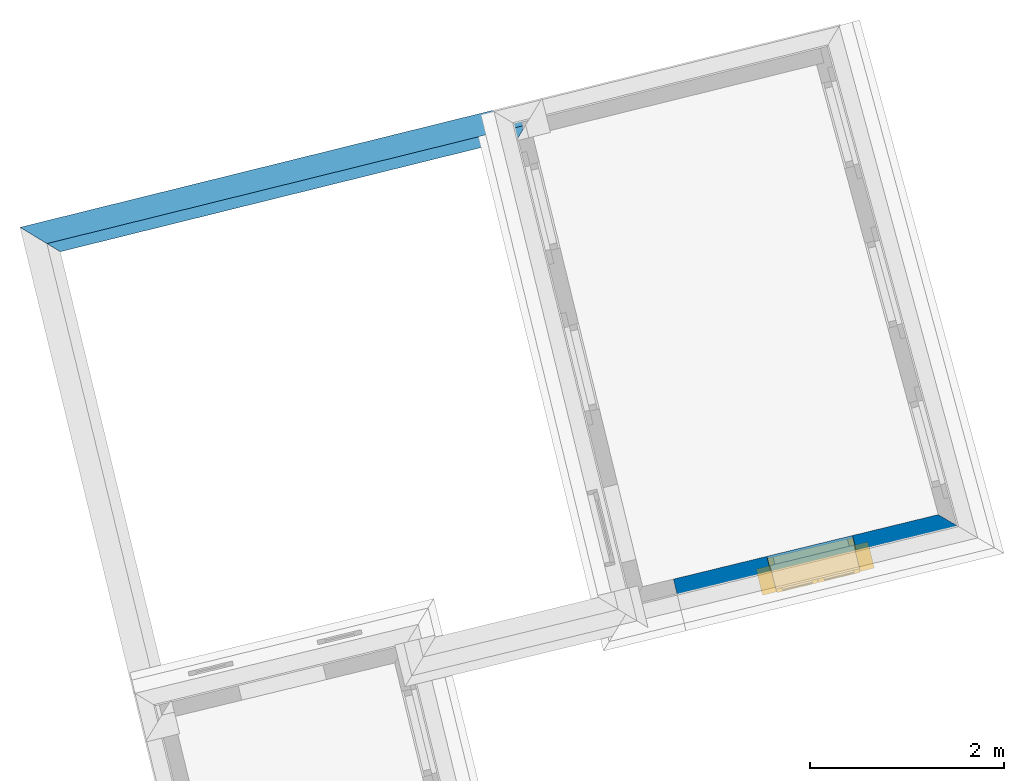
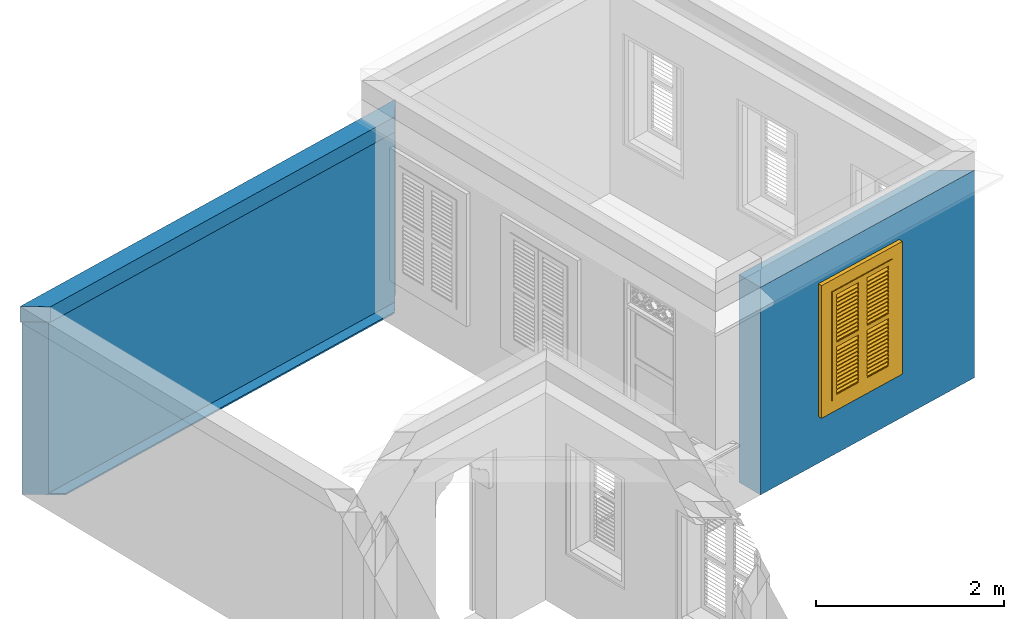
# One storey, part 3 of 7: 3 walls, 1 window, 1 opening.
"""IFC4 building model written with IfcOpenShell, lengths in metres."""

from ifc_helpers import new_model, si_unit, frame, origin, origin_with_axes, place, context, subcontext, project, spatial, polyline, outline, extrude, clip, halfspace, faceted_brep, source, transform, mapped, material, layer, layer_set, layer_usage, material_profile, profile_set, profile_usage, type_object, type_shapes, element, fill, save


model = new_model("IFC4")

# Units and contexts
model_context = context("Model", 3, world=origin_with_axes())
body_context = subcontext(model_context, "Body", "Model", "MODEL_VIEW")
ifc_project = project(units=[si_unit("PLANEANGLEUNIT", "RADIAN"), si_unit("MASSUNIT", "GRAM", prefix="KILO"), si_unit("FORCEUNIT", "NEWTON", prefix="KILO"), si_unit("LENGTHUNIT", "METRE"), si_unit("AREAUNIT", "SQUARE_METRE"), si_unit("VOLUMEUNIT", "CUBIC_METRE")], contexts=[model_context, model_context])

# Site, building, storey
site_placement = place(None, origin_with_axes())
site = spatial("IfcSite", under=ifc_project, at=site_placement, Name="Site plot-4", CompositionType="ELEMENT")
building_placement = place(None, origin_with_axes())
building = spatial("IfcBuilding", under=site, at=building_placement, Name="Building plot-4", CompositionType="ELEMENT")
storey_placement = place(None, frame((0.0, 0.0, 5.4), z_axis=(0.0, 0.0, 1.0), x_axis=(1.0, 0.0, 0.0)))
storey = spatial("IfcBuildingStorey", under=building, at=storey_placement, Name="plot-4 2", CompositionType="ELEMENT", Elevation=5.4)

# Wall, opening, window
ifc_material = material(Name="Masonry")
ifc_layer = layer(ifc_material, 0.33, ventilated=False)
ifc_layer_set = layer_set([ifc_layer], Name="exterior_0.08_0.25")
ifc_layer_usage = layer_usage(ifc_layer_set, "AXIS2", "POSITIVE", -0.25)
wall_type_1 = type_object("IfcWallType", Name="exterior_0.08_0.25", PredefinedType="SOLIDWALL", material=ifc_layer_set)
wall_1_placement = place(storey_placement, frame((23.8026850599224, 15.7162538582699, 0.0), z_axis=(0.0, 0.0, 1.0), x_axis=(0.971605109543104, 0.236608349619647, 0.0)))
wall_1 = element("IfcWall", 1, at=wall_1_placement, inside=storey, type_object=wall_type_1, material=ifc_layer_usage, Name="exterior", context=body_context, shape_type="SweptSolid", body=[
    extrude(outline(polyline([(-1.72737096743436e-16, 0.0800000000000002), (-7.61848032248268e-16, -0.25), (3.15434402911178, -0.250000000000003), (2.81586708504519, 0.0799999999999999), (-1.72737096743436e-16, 0.0800000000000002)])), origin_with_axes(), (0.0, 0.0, 1.0), 2.7),
])
opening_placement = place(wall_1_placement, frame((0.993961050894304, 0.0, 0.75)))
opening = element("IfcOpeningElement", 2, at=opening_placement, cuts=wall_1, Name="My Opening", ObjectType="Opening", context=body_context, shape_type="SweptSolid", body=[
    extrude(outline(polyline([(0.0, -0.270000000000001), (0.909999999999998, -0.270000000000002), (0.909999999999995, 1.1), (-1.88737914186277e-15, 1.1), (0.0, -0.270000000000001)])), origin_with_axes(), (0.0, 0.0, 1.0), 1.445),
])
window_type = type_object("IfcWindowType", Name="shuttered_shorter", PartitioningType="DOUBLE_PANEL_HORIZONTAL", PredefinedType="NOTDEFINED")
shared_shape = source(origin(), body_context, "Body", "Brep", [
    faceted_brep([(0.393, 0.0, 0.622), (0.074, 0.0, 0.622), (0.074, 0.0, 0.632), (0.393, 0.0, 0.632), (0.074, -0.04, 0.592), (0.393, -0.04, 0.592), (0.393, -0.04, 0.582), (0.074, -0.04, 0.582), (0.517, 0.0, 0.682), (0.836, 0.0, 0.682), (0.836, 0.0, 0.672), (0.517, 0.0, 0.672), (0.517, -0.04, 0.642), (0.836, -0.04, 0.642), (0.836, -0.04, 0.632), (0.517, -0.04, 0.632), (0.517, 0.0, 0.632), (0.836, 0.0, 0.632), (0.836, 0.0, 0.622), (0.517, 0.0, 0.622), (0.517, -0.04, 0.592), (0.836, -0.04, 0.592), (0.836, -0.04, 0.582), (0.517, -0.04, 0.582), (0.517, 0.0, 0.232), (0.836, 0.0, 0.232), (0.836, 0.0, 0.222), (0.517, 0.0, 0.222), (0.517, -0.04, 0.192), (0.836, -0.04, 0.192), (0.836, -0.04, 0.182), (0.517, -0.04, 0.182), (0.517, 0.0, 0.532), (0.836, 0.0, 0.532), (0.836, 0.0, 0.522), (0.517, 0.0, 0.522), (0.517, -0.04, 0.492), (0.836, -0.04, 0.492), (0.836, -0.04, 0.482), (0.517, -0.04, 0.482), (0.517, 0.0, 0.482), (0.836, 0.0, 0.482), (0.836, 0.0, 0.472), (0.517, 0.0, 0.472), (0.517, -0.04, 0.442), (0.836, -0.04, 0.442), (0.836, -0.04, 0.432), (0.517, -0.04, 0.432), (0.517, 0.0, 0.582), (0.836, 0.0, 0.582), (0.836, 0.0, 0.572), (0.517, 0.0, 0.572), (0.517, -0.04, 0.542), (0.836, -0.04, 0.542), (0.836, -0.04, 0.532), (0.517, -0.04, 0.532), (0.517, 0.0, 0.182), (0.836, 0.0, 0.182), (0.836, 0.0, 0.172), (0.517, 0.0, 0.172), (0.517, -0.04, 0.142), (0.836, -0.04, 0.142), (0.836, -0.04, 0.132), (0.517, -0.04, 0.132), (0.517, 0.0, 0.382), (0.836, 0.0, 0.382), (0.836, 0.0, 0.372), (0.517, 0.0, 0.372), (0.517, -0.04, 0.342), (0.836, -0.04, 0.342), (0.836, -0.04, 0.332), (0.517, -0.04, 0.332), (0.517, 0.0, 0.432), (0.836, 0.0, 0.432), (0.836, 0.0, 0.422), (0.517, 0.0, 0.422), (0.517, -0.04, 0.392), (0.836, -0.04, 0.392), (0.836, -0.04, 0.382), (0.517, -0.04, 0.382), (0.517, 0.0, 0.132), (0.836, 0.0, 0.132), (0.836, 0.0, 0.122), (0.517, 0.0, 0.122), (0.517, -0.04, 0.092), (0.836, -0.04, 0.092), (0.836, -0.04, 0.082), (0.517, -0.04, 0.082), (0.517, 0.0, 0.282), (0.836, 0.0, 0.282), (0.836, 0.0, 0.272), (0.517, 0.0, 0.272), (0.517, -0.04, 0.242), (0.836, -0.04, 0.242), (0.836, -0.04, 0.232), (0.517, -0.04, 0.232), (0.517, 0.0, 0.332), (0.836, 0.0, 0.332), (0.836, 0.0, 0.322), (0.517, 0.0, 0.322), (0.517, -0.04, 0.292), (0.836, -0.04, 0.292), (0.836, -0.04, 0.282), (0.517, -0.04, 0.282), (0.517, 0.0, 1.362667), (0.836, 0.0, 1.362667), (0.836, 0.0, 1.352667), (0.517, 0.0, 1.352667), (0.517, -0.04, 1.322667), (0.836, -0.04, 1.322667), (0.836, -0.04, 1.312667), (0.517, -0.04, 1.312667), (0.517, 0.0, 1.312667), (0.836, 0.0, 1.312667), (0.836, 0.0, 1.302667), (0.517, 0.0, 1.302667), (0.517, -0.04, 1.272667), (0.836, -0.04, 1.272667), (0.836, -0.04, 1.262667), (0.517, -0.04, 1.262667), (0.517, 0.0, 0.912667), (0.836, 0.0, 0.912667), (0.836, 0.0, 0.902667), (0.517, 0.0, 0.902667), (0.517, -0.04, 0.872667), (0.836, -0.04, 0.872667), (0.836, -0.04, 0.862667), (0.517, -0.04, 0.862667), (0.517, 0.0, 1.212667), (0.836, 0.0, 1.212667), (0.836, 0.0, 1.202667), (0.517, 0.0, 1.202667), (0.517, -0.04, 1.172667), (0.836, -0.04, 1.172667), (0.836, -0.04, 1.162667), (0.517, -0.04, 1.162667), (0.517, 0.0, 1.162667), (0.836, 0.0, 1.162667), (0.836, 0.0, 1.152667), (0.517, 0.0, 1.152667), (0.517, -0.04, 1.122667), (0.836, -0.04, 1.122667), (0.836, -0.04, 1.112667), (0.517, -0.04, 1.112667), (0.517, 0.0, 1.262667), (0.836, 0.0, 1.262667), (0.836, 0.0, 1.252667), (0.517, 0.0, 1.252667), (0.517, -0.04, 1.222667), (0.836, -0.04, 1.222667), (0.836, -0.04, 1.212667), (0.517, -0.04, 1.212667), (0.517, 0.0, 0.862667), (0.836, 0.0, 0.862667), (0.836, 0.0, 0.852667), (0.517, 0.0, 0.852667), (0.517, -0.04, 0.822667), (0.836, -0.04, 0.822667), (0.836, -0.04, 0.812667), (0.517, -0.04, 0.812667), (0.517, 0.0, 1.062667), (0.836, 0.0, 1.062667), (0.836, 0.0, 1.052667), (0.517, 0.0, 1.052667), (0.517, -0.04, 1.022667), (0.836, -0.04, 1.022667), (0.836, -0.04, 1.012667), (0.517, -0.04, 1.012667), (0.517, 0.0, 1.112667), (0.836, 0.0, 1.112667), (0.836, 0.0, 1.102667), (0.517, 0.0, 1.102667), (0.517, -0.04, 1.072667), (0.836, -0.04, 1.072667), (0.836, -0.04, 1.062667), (0.517, -0.04, 1.062667), (0.517, 0.0, 0.812667), (0.836, 0.0, 0.812667), (0.836, 0.0, 0.802667), (0.517, 0.0, 0.802667), (0.517, -0.04, 0.772667), (0.836, -0.04, 0.772667), (0.836, -0.04, 0.762667), (0.517, -0.04, 0.762667), (0.517, 0.0, 0.962667), (0.836, 0.0, 0.962667), (0.836, 0.0, 0.952667), (0.517, 0.0, 0.952667), (0.517, -0.04, 0.922667), (0.836, -0.04, 0.922667), (0.836, -0.04, 0.912667), (0.517, -0.04, 0.912667), (0.517, 0.0, 1.012667), (0.836, 0.0, 1.012667), (0.836, 0.0, 1.002667), (0.517, 0.0, 1.002667), (0.517, -0.04, 0.972667), (0.836, -0.04, 0.972667), (0.836, -0.04, 0.962667), (0.517, -0.04, 0.962667), (0.074, 0.0, 0.682), (0.393, 0.0, 0.682), (0.393, 0.0, 0.672), (0.074, 0.0, 0.672), (0.074, -0.04, 0.642), (0.393, -0.04, 0.642), (0.393, -0.04, 0.632), (0.074, -0.04, 0.632), (0.074, 0.0, 0.232), (0.393, 0.0, 0.232), (0.393, 0.0, 0.222), (0.074, 0.0, 0.222), (0.074, -0.04, 0.192), (0.393, -0.04, 0.192), (0.393, -0.04, 0.182), (0.074, -0.04, 0.182), (0.074, 0.0, 0.532), (0.393, 0.0, 0.532), (0.393, 0.0, 0.522), (0.074, 0.0, 0.522), (0.074, -0.04, 0.492), (0.393, -0.04, 0.492), (0.393, -0.04, 0.482), (0.074, -0.04, 0.482), (0.074, 0.0, 0.482), (0.393, 0.0, 0.482), (0.393, 0.0, 0.472), (0.074, 0.0, 0.472), (0.074, -0.04, 0.442), (0.393, -0.04, 0.442), (0.393, -0.04, 0.432), (0.074, -0.04, 0.432), (0.074, 0.0, 0.582), (0.393, 0.0, 0.582), (0.393, 0.0, 0.572), (0.074, 0.0, 0.572), (0.074, -0.04, 0.542), (0.393, -0.04, 0.542), (0.393, -0.04, 0.532), (0.074, -0.04, 0.532), (0.074, 0.0, 0.182), (0.393, 0.0, 0.182), (0.393, 0.0, 0.172), (0.074, 0.0, 0.172), (0.074, -0.04, 0.142), (0.393, -0.04, 0.142), (0.393, -0.04, 0.132), (0.074, -0.04, 0.132), (0.074, 0.0, 0.382), (0.393, 0.0, 0.382), (0.393, 0.0, 0.372), (0.074, 0.0, 0.372), (0.074, -0.04, 0.342), (0.393, -0.04, 0.342), (0.393, -0.04, 0.332), (0.074, -0.04, 0.332), (0.074, 0.0, 0.432), (0.393, 0.0, 0.432), (0.393, 0.0, 0.422), (0.074, 0.0, 0.422), (0.074, -0.04, 0.392), (0.393, -0.04, 0.392), (0.393, -0.04, 0.382), (0.074, -0.04, 0.382), (0.074, 0.0, 0.132), (0.393, 0.0, 0.132), (0.393, 0.0, 0.122), (0.074, 0.0, 0.122), (0.074, -0.04, 0.092), (0.393, -0.04, 0.092), (0.393, -0.04, 0.082), (0.074, -0.04, 0.082), (0.074, 0.0, 0.282), (0.393, 0.0, 0.282), (0.393, 0.0, 0.272), (0.074, 0.0, 0.272), (0.074, -0.04, 0.242), (0.393, -0.04, 0.242), (0.393, -0.04, 0.232), (0.074, -0.04, 0.232), (0.074, 0.0, 0.332), (0.393, 0.0, 0.332), (0.393, 0.0, 0.322), (0.074, 0.0, 0.322), (0.074, -0.04, 0.292), (0.393, -0.04, 0.292), (0.393, -0.04, 0.282), (0.074, -0.04, 0.282), (0.074, 0.0, 1.362667), (0.393, 0.0, 1.362667), (0.393, 0.0, 1.352667), (0.074, 0.0, 1.352667), (0.074, -0.04, 1.322667), (0.393, -0.04, 1.322667), (0.393, -0.04, 1.312667), (0.074, -0.04, 1.312667), (0.074, 0.0, 1.312667), (0.393, 0.0, 1.312667), (0.393, 0.0, 1.302667), (0.074, 0.0, 1.302667), (0.074, -0.04, 1.272667), (0.393, -0.04, 1.272667), (0.393, -0.04, 1.262667), (0.074, -0.04, 1.262667), (0.074, 0.0, 0.912667), (0.393, 0.0, 0.912667), (0.393, 0.0, 0.902667), (0.074, 0.0, 0.902667), (0.074, -0.04, 0.872667), (0.393, -0.04, 0.872667), (0.393, -0.04, 0.862667), (0.074, -0.04, 0.862667), (0.074, 0.0, 1.212667), (0.393, 0.0, 1.212667), (0.393, 0.0, 1.202667), (0.074, 0.0, 1.202667), (0.074, -0.04, 1.172667), (0.393, -0.04, 1.172667), (0.393, -0.04, 1.162667), (0.074, -0.04, 1.162667), (0.074, 0.0, 1.162667), (0.393, 0.0, 1.162667), (0.393, 0.0, 1.152667), (0.074, 0.0, 1.152667), (0.074, -0.04, 1.122667), (0.393, -0.04, 1.122667), (0.393, -0.04, 1.112667), (0.074, -0.04, 1.112667), (0.074, 0.0, 1.262667), (0.393, 0.0, 1.262667), (0.393, 0.0, 1.252667), (0.074, 0.0, 1.252667), (0.074, -0.04, 1.222667), (0.393, -0.04, 1.222667), (0.393, -0.04, 1.212667), (0.074, -0.04, 1.212667), (0.074, 0.0, 0.862667), (0.393, 0.0, 0.862667), (0.393, 0.0, 0.852667), (0.074, 0.0, 0.852667), (0.074, -0.04, 0.822667), (0.393, -0.04, 0.822667), (0.393, -0.04, 0.812667), (0.074, -0.04, 0.812667), (0.074, 0.0, 1.062667), (0.393, 0.0, 1.062667), (0.393, 0.0, 1.052667), (0.074, 0.0, 1.052667), (0.074, -0.04, 1.022667), (0.393, -0.04, 1.022667), (0.393, -0.04, 1.012667), (0.074, -0.04, 1.012667), (0.074, 0.0, 1.112667), (0.393, 0.0, 1.112667), (0.393, 0.0, 1.102667), (0.074, 0.0, 1.102667), (0.074, -0.04, 1.072667), (0.393, -0.04, 1.072667), (0.393, -0.04, 1.062667), (0.074, -0.04, 1.062667), (0.074, 0.0, 0.812667), (0.393, 0.0, 0.812667), (0.393, 0.0, 0.802667), (0.074, 0.0, 0.802667), (0.074, -0.04, 0.772667), (0.393, -0.04, 0.772667), (0.393, -0.04, 0.762667), (0.074, -0.04, 0.762667), (0.074, 0.0, 0.962667), (0.393, 0.0, 0.962667), (0.393, 0.0, 0.952667), (0.074, 0.0, 0.952667), (0.074, -0.04, 0.922667), (0.393, -0.04, 0.922667), (0.393, -0.04, 0.912667), (0.074, -0.04, 0.912667), (0.074, 0.0, 1.012667), (0.393, 0.0, 1.012667), (0.393, 0.0, 1.002667), (0.074, 0.0, 1.002667), (0.074, -0.04, 0.972667), (0.393, -0.04, 0.972667), (0.393, -0.04, 0.962667), (0.074, -0.04, 0.962667), (0.517, -0.04, 0.072), (0.457, -0.04, 0.012), (0.896, -0.04, 0.012), (0.836, -0.04, 0.072), (0.457, -0.04, 0.692667), (0.517, -0.04, 0.692667), (0.457, 0.0, 0.012), (0.896, 0.0, 0.012), (0.836, -0.04, 0.692667), (0.896, -0.04, 0.692667), (0.836, 0.0, 0.072), (0.517, 0.0, 0.072), (0.457, 0.0, 0.692667), (0.517, 0.0, 0.692667), (0.517, -0.04, 0.752666), (0.457, -0.04, 0.752666), (0.896, 0.0, 0.692667), (0.836, 0.0, 0.692667), (0.836, -0.04, 0.752666), (0.896, -0.04, 0.752666), (0.457, 0.0, 0.752666), (0.457, -0.04, 1.433333), (0.517, -0.04, 1.373333), (0.896, 0.0, 0.752666), (0.836, -0.04, 1.373333), (0.896, -0.04, 1.433333), (0.457, 0.0, 1.433333), (0.517, 0.0, 0.752666), (0.836, 0.0, 0.752666), (0.517, 0.0, 1.373333), (0.896, 0.0, 1.433333), (0.836, 0.0, 1.373333), (0.074, -0.04, 0.072), (0.014, -0.04, 0.012), (0.453, -0.04, 0.012), (0.393, -0.04, 0.072), (0.014, -0.04, 0.692667), (0.074, -0.04, 0.692667), (0.014, 0.0, 0.012), (0.453, 0.0, 0.012), (0.393, -0.04, 0.692667), (0.453, -0.04, 0.692667), (0.393, 0.0, 0.072), (0.074, 0.0, 0.072), (0.014, 0.0, 0.692667), (0.074, 0.0, 0.692667), (0.074, -0.04, 0.752666), (0.014, -0.04, 0.752666), (0.453, 0.0, 0.692667), (0.393, 0.0, 0.692667), (0.393, -0.04, 0.752666), (0.453, -0.04, 0.752666), (0.014, 0.0, 0.752666), (0.014, -0.04, 1.433333), (0.074, -0.04, 1.373333), (0.453, 0.0, 0.752666), (0.393, -0.04, 1.373333), (0.453, -0.04, 1.433333), (0.014, 0.0, 1.433333), (0.074, 0.0, 0.752666), (0.393, 0.0, 0.752666), (0.074, 0.0, 1.373333), (0.453, 0.0, 1.433333), (0.393, 0.0, 1.373333), (0.0, 0.33, 1.445), (0.91, 0.33, 1.445), (0.85, 0.33, 1.385), (0.06, 0.33, 1.385), (0.91, 0.25, 1.445), (0.0, 0.25, 1.445), (0.91, 0.25, 1.445), (0.85, 0.33, 0.06), (0.91, 0.33, 0.0), (0.85, 0.25, 1.385), (0.06, 0.25, 1.385), (0.0, 0.33, 0.0), (0.06, 0.33, 0.06), (0.0, 0.25, 0.0), (0.91, 0.25, 0.0), (0.85, 0.25, 0.06), (0.06, 0.25, 0.06), (1.05, 0.25, 1.585), (-0.14, 0.25, 1.585), (-0.14, -0.03, 1.585), (1.05, -0.03, 1.585), (0.9, -0.03, 1.435), (0.01, -0.03, 1.435), (0.01, 0.25, 1.435), (0.9, 0.25, 1.435), (0.9, 0.25, 0.01), (0.9, -0.03, 0.01), (1.05, -0.03, -0.14), (1.05, 0.25, -0.14), (0.01, -0.03, 0.01), (0.01, 0.25, 0.01), (-0.14, -0.03, -0.14), (-0.14, 0.25, -0.14)], [[[0, 1, 2, 3]], [[4, 5, 3, 2]], [[5, 6, 0, 3]], [[1, 0, 6, 7]], [[2, 1, 7, 4]], [[5, 4, 7, 6]], [[8, 9, 10, 11]], [[12, 13, 9, 8]], [[13, 14, 10, 9]], [[14, 15, 11, 10]], [[15, 12, 8, 11]], [[13, 12, 15, 14]], [[16, 17, 18, 19]], [[20, 21, 17, 16]], [[21, 22, 18, 17]], [[22, 23, 19, 18]], [[23, 20, 16, 19]], [[21, 20, 23, 22]], [[24, 25, 26, 27]], [[28, 29, 25, 24]], [[29, 30, 26, 25]], [[30, 31, 27, 26]], [[31, 28, 24, 27]], [[29, 28, 31, 30]], [[32, 33, 34, 35]], [[36, 37, 33, 32]], [[37, 38, 34, 33]], [[38, 39, 35, 34]], [[39, 36, 32, 35]], [[37, 36, 39, 38]], [[40, 41, 42, 43]], [[44, 45, 41, 40]], [[45, 46, 42, 41]], [[46, 47, 43, 42]], [[47, 44, 40, 43]], [[45, 44, 47, 46]], [[48, 49, 50, 51]], [[52, 53, 49, 48]], [[53, 54, 50, 49]], [[54, 55, 51, 50]], [[55, 52, 48, 51]], [[53, 52, 55, 54]], [[56, 57, 58, 59]], [[60, 61, 57, 56]], [[61, 62, 58, 57]], [[62, 63, 59, 58]], [[63, 60, 56, 59]], [[61, 60, 63, 62]], [[64, 65, 66, 67]], [[68, 69, 65, 64]], [[69, 70, 66, 65]], [[70, 71, 67, 66]], [[71, 68, 64, 67]], [[69, 68, 71, 70]], [[72, 73, 74, 75]], [[76, 77, 73, 72]], [[77, 78, 74, 73]], [[78, 79, 75, 74]], [[79, 76, 72, 75]], [[77, 76, 79, 78]], [[80, 81, 82, 83]], [[84, 85, 81, 80]], [[85, 86, 82, 81]], [[86, 87, 83, 82]], [[87, 84, 80, 83]], [[85, 84, 87, 86]], [[88, 89, 90, 91]], [[92, 93, 89, 88]], [[93, 94, 90, 89]], [[94, 95, 91, 90]], [[95, 92, 88, 91]], [[93, 92, 95, 94]], [[96, 97, 98, 99]], [[100, 101, 97, 96]], [[101, 102, 98, 97]], [[102, 103, 99, 98]], [[103, 100, 96, 99]], [[101, 100, 103, 102]], [[104, 105, 106, 107]], [[108, 109, 105, 104]], [[109, 110, 106, 105]], [[110, 111, 107, 106]], [[111, 108, 104, 107]], [[109, 108, 111, 110]], [[112, 113, 114, 115]], [[116, 117, 113, 112]], [[117, 118, 114, 113]], [[118, 119, 115, 114]], [[119, 116, 112, 115]], [[117, 116, 119, 118]], [[120, 121, 122, 123]], [[124, 125, 121, 120]], [[125, 126, 122, 121]], [[126, 127, 123, 122]], [[127, 124, 120, 123]], [[125, 124, 127, 126]], [[128, 129, 130, 131]], [[132, 133, 129, 128]], [[133, 134, 130, 129]], [[134, 135, 131, 130]], [[135, 132, 128, 131]], [[133, 132, 135, 134]], [[136, 137, 138, 139]], [[140, 141, 137, 136]], [[141, 142, 138, 137]], [[142, 143, 139, 138]], [[139, 143, 140, 136]], [[141, 140, 143, 142]], [[144, 145, 146, 147]], [[148, 149, 145, 144]], [[149, 150, 146, 145]], [[150, 151, 147, 146]], [[151, 148, 144, 147]], [[149, 148, 151, 150]], [[152, 153, 154, 155]], [[156, 157, 153, 152]], [[157, 158, 154, 153]], [[158, 159, 155, 154]], [[159, 156, 152, 155]], [[157, 156, 159, 158]], [[160, 161, 162, 163]], [[164, 165, 161, 160]], [[165, 166, 162, 161]], [[166, 167, 163, 162]], [[167, 164, 160, 163]], [[165, 164, 167, 166]], [[168, 169, 170, 171]], [[172, 173, 169, 168]], [[173, 174, 170, 169]], [[174, 175, 171, 170]], [[175, 172, 168, 171]], [[173, 172, 175, 174]], [[176, 177, 178, 179]], [[180, 181, 177, 176]], [[181, 182, 178, 177]], [[182, 183, 179, 178]], [[183, 180, 176, 179]], [[181, 180, 183, 182]], [[184, 185, 186, 187]], [[188, 189, 185, 184]], [[189, 190, 186, 185]], [[190, 191, 187, 186]], [[191, 188, 184, 187]], [[189, 188, 191, 190]], [[192, 193, 194, 195]], [[196, 197, 193, 192]], [[197, 198, 194, 193]], [[198, 199, 195, 194]], [[199, 196, 192, 195]], [[197, 196, 199, 198]], [[200, 201, 202, 203]], [[204, 205, 201, 200]], [[205, 206, 202, 201]], [[206, 207, 203, 202]], [[207, 204, 200, 203]], [[205, 204, 207, 206]], [[208, 209, 210, 211]], [[212, 213, 209, 208]], [[213, 214, 210, 209]], [[214, 215, 211, 210]], [[215, 212, 208, 211]], [[213, 212, 215, 214]], [[216, 217, 218, 219]], [[220, 221, 217, 216]], [[221, 222, 218, 217]], [[222, 223, 219, 218]], [[223, 220, 216, 219]], [[221, 220, 223, 222]], [[224, 225, 226, 227]], [[228, 229, 225, 224]], [[229, 230, 226, 225]], [[230, 231, 227, 226]], [[231, 228, 224, 227]], [[229, 228, 231, 230]], [[232, 233, 234, 235]], [[236, 237, 233, 232]], [[237, 238, 234, 233]], [[238, 239, 235, 234]], [[239, 236, 232, 235]], [[237, 236, 239, 238]], [[240, 241, 242, 243]], [[244, 245, 241, 240]], [[245, 246, 242, 241]], [[246, 247, 243, 242]], [[247, 244, 240, 243]], [[245, 244, 247, 246]], [[248, 249, 250, 251]], [[252, 253, 249, 248]], [[253, 254, 250, 249]], [[254, 255, 251, 250]], [[255, 252, 248, 251]], [[253, 252, 255, 254]], [[256, 257, 258, 259]], [[260, 261, 257, 256]], [[261, 262, 258, 257]], [[262, 263, 259, 258]], [[263, 260, 256, 259]], [[261, 260, 263, 262]], [[264, 265, 266, 267]], [[268, 269, 265, 264]], [[269, 270, 266, 265]], [[270, 271, 267, 266]], [[271, 268, 264, 267]], [[269, 268, 271, 270]], [[272, 273, 274, 275]], [[276, 277, 273, 272]], [[277, 278, 274, 273]], [[278, 279, 275, 274]], [[279, 276, 272, 275]], [[277, 276, 279, 278]], [[280, 281, 282, 283]], [[284, 285, 281, 280]], [[285, 286, 282, 281]], [[286, 287, 283, 282]], [[287, 284, 280, 283]], [[285, 284, 287, 286]], [[288, 289, 290, 291]], [[292, 293, 289, 288]], [[293, 294, 290, 289]], [[294, 295, 291, 290]], [[295, 292, 288, 291]], [[293, 292, 295, 294]], [[296, 297, 298, 299]], [[300, 301, 297, 296]], [[301, 302, 298, 297]], [[302, 303, 299, 298]], [[303, 300, 296, 299]], [[301, 300, 303, 302]], [[304, 305, 306, 307]], [[308, 309, 305, 304]], [[309, 310, 306, 305]], [[310, 311, 307, 306]], [[311, 308, 304, 307]], [[309, 308, 311, 310]], [[312, 313, 314, 315]], [[316, 317, 313, 312]], [[317, 318, 314, 313]], [[318, 319, 315, 314]], [[319, 316, 312, 315]], [[317, 316, 319, 318]], [[320, 321, 322, 323]], [[324, 325, 321, 320]], [[325, 326, 322, 321]], [[326, 327, 323, 322]], [[327, 324, 320, 323]], [[325, 324, 327, 326]], [[328, 329, 330, 331]], [[332, 333, 329, 328]], [[333, 334, 330, 329]], [[334, 335, 331, 330]], [[335, 332, 328, 331]], [[333, 332, 335, 334]], [[336, 337, 338, 339]], [[340, 341, 337, 336]], [[341, 342, 338, 337]], [[342, 343, 339, 338]], [[343, 340, 336, 339]], [[341, 340, 343, 342]], [[344, 345, 346, 347]], [[348, 349, 345, 344]], [[349, 350, 346, 345]], [[350, 351, 347, 346]], [[351, 348, 344, 347]], [[349, 348, 351, 350]], [[352, 353, 354, 355]], [[356, 357, 353, 352]], [[357, 358, 354, 353]], [[358, 359, 355, 354]], [[359, 356, 352, 355]], [[357, 356, 359, 358]], [[360, 361, 362, 363]], [[364, 365, 361, 360]], [[365, 366, 362, 361]], [[366, 367, 363, 362]], [[367, 364, 360, 363]], [[365, 364, 367, 366]], [[368, 369, 370, 371]], [[372, 373, 369, 368]], [[373, 374, 370, 369]], [[374, 375, 371, 370]], [[375, 372, 368, 371]], [[373, 372, 375, 374]], [[376, 377, 378, 379]], [[380, 381, 377, 376]], [[381, 382, 378, 377]], [[382, 383, 379, 378]], [[383, 380, 376, 379]], [[381, 380, 383, 382]], [[384, 385, 386, 387]], [[388, 385, 384, 389]], [[390, 391, 386, 385]], [[392, 387, 386, 393]], [[384, 387, 394, 395]], [[390, 385, 388, 396]], [[389, 384, 395, 397]], [[389, 398, 399, 388]], [[390, 395, 394, 391]], [[400, 393, 386, 391]], [[387, 392, 401, 394]], [[402, 392, 393, 403]], [[396, 388, 399, 404]], [[390, 396, 397, 395]], [[392, 389, 397, 401]], [[398, 389, 392, 402]], [[405, 399, 398, 406]], [[394, 401, 400, 391]], [[407, 403, 393, 400]], [[408, 402, 403, 409]], [[404, 399, 405, 410]], [[411, 397, 396, 404]], [[397, 411, 412, 401]], [[398, 402, 412, 411]], [[406, 398, 411, 413]], [[405, 406, 408, 409]], [[401, 412, 407, 400]], [[414, 409, 403, 407]], [[402, 408, 415, 412]], [[405, 409, 414, 410]], [[404, 410, 413, 411]], [[408, 406, 413, 415]], [[412, 415, 414, 407]], [[413, 410, 414, 415]], [[416, 417, 418, 419]], [[420, 417, 416, 421]], [[422, 423, 418, 417]], [[424, 419, 418, 425]], [[416, 419, 426, 427]], [[422, 417, 420, 428]], [[421, 416, 427, 429]], [[421, 430, 431, 420]], [[422, 427, 426, 423]], [[432, 425, 418, 423]], [[419, 424, 433, 426]], [[434, 424, 425, 435]], [[428, 420, 431, 436]], [[422, 428, 429, 427]], [[424, 421, 429, 433]], [[430, 421, 424, 434]], [[437, 431, 430, 438]], [[426, 433, 432, 423]], [[439, 435, 425, 432]], [[440, 434, 435, 441]], [[436, 431, 437, 442]], [[443, 429, 428, 436]], [[429, 443, 444, 433]], [[430, 434, 444, 443]], [[438, 430, 443, 445]], [[437, 438, 440, 441]], [[433, 444, 439, 432]], [[446, 441, 435, 439]], [[434, 440, 447, 444]], [[437, 441, 446, 442]], [[436, 442, 445, 443]], [[440, 438, 445, 447]], [[444, 447, 446, 439]], [[445, 442, 446, 447]], [[448, 449, 450, 451]], [[452, 449, 448]], [[448, 453, 454]], [[448, 454, 452]], [[455, 450, 449, 456]], [[451, 450, 457, 458]], [[459, 448, 451, 460]], [[448, 459, 461, 453]], [[454, 453, 458, 457]], [[462, 452, 454]], [[454, 457, 463]], [[454, 463, 462]], [[456, 449, 452, 462]], [[450, 455, 463, 457]], [[456, 459, 460, 455]], [[460, 451, 458, 464]], [[459, 456, 462, 461]], [[464, 458, 453, 461]], [[461, 462, 463, 464]], [[455, 460, 464, 463]], [[465, 466, 467, 468]], [[469, 470, 471, 472]], [[473, 474, 469, 472]], [[465, 468, 475, 476]], [[470, 477, 478, 471]], [[474, 473, 478, 477]], [[474, 477, 479, 475]], [[470, 467, 479, 477]], [[470, 469, 468, 467]], [[474, 475, 468, 469]], [[471, 478, 480, 466]], [[473, 472, 465, 476]], [[473, 476, 480, 478]], [[466, 465, 472, 471]], [[480, 476, 475, 479]], [[480, 479, 467, 466]]]),
])
type_shapes(window_type, [shared_shape])
window_placement = place(storey_placement, frame((24.8323069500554, 15.6890999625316, 0.75), z_axis=(0.0, 0.0, 1.0), x_axis=(0.884160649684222, 0.215313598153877, 0.0)))
window = element("IfcWindow", 3, at=window_placement, inside=storey, type_object=window_type, Name="bedroom outside window", OverallHeight=1.445, OverallWidth=0.91, context=body_context, shape_type="MappedRepresentation", body=[
    mapped(shared_shape, transform((0.0, 0.0, 0.0), scale=1.0)),
])
fill(opening, window)

# Walls
ifc_material_profile_1 = material_profile(None, outline(polyline([(0.25, 0.0), (0.25, 2.245), (0.05, 2.245), (0.05, 0.02), (-0.08, 0.02), (-0.08, 0.0), (0.25, 0.0)])))
ifc_profile_set_1 = profile_set([ifc_material_profile_1])
ifc_profile_usage_1 = profile_usage(ifc_profile_set_1)
wall_type_2 = type_object("IfcWallType", Name="parapet party_0", PredefinedType="PARAPET", material=ifc_profile_set_1)
wall_2_placement = place(storey_placement, frame((16.3856024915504, 18.9929394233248, 0.0), z_axis=(0.97071101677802, 0.240250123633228, 0.0), x_axis=(-0.240250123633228, 0.97071101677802, 0.0)))
element("IfcWall", 4, at=wall_2_placement, inside=storey, type_object=wall_type_2, material=ifc_profile_usage_1, Name="parapet party_0", context=body_context, shape_type="Clipping", body=[
    clip(clip(extrude(outline(polyline([(0.25, 0.0), (0.25, 2.245), (0.05, 2.245), (0.05, 0.02), (-0.08, 0.02), (-0.08, 0.0), (0.25, 0.0)])), origin_with_axes(), (0.0, 0.0, 1.0), 7.02394714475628), halfspace(frame((0.0, 0.0, 6.02394714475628), z_axis=(0.707106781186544, 0.0, -0.707106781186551), x_axis=(0.0, 1.0, 0.0)), True)), halfspace(frame((0.0, 0.0, 1.0), z_axis=(-0.705779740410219, 0.0, -0.708431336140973), x_axis=(0.0, 1.0, 0.0)), False)),
])
ifc_material_profile_2 = material_profile(None, outline(polyline([(0.265, 2.245), (0.265, 2.445), (0.035, 2.445), (0.035, 2.245), (0.265, 2.245)])))
ifc_profile_set_2 = profile_set([ifc_material_profile_2])
ifc_profile_usage_2 = profile_usage(ifc_profile_set_2)
wall_type_3 = type_object("IfcWallType", Name="parapet party_1", PredefinedType="PARAPET", material=ifc_profile_set_2)
wall_3_placement = place(storey_placement, frame((16.3856024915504, 18.9929394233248, 0.0), z_axis=(0.97071101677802, 0.240250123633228, 0.0), x_axis=(-0.240250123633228, 0.97071101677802, 0.0)))
element("IfcWall", 5, at=wall_3_placement, inside=storey, type_object=wall_type_3, material=ifc_profile_usage_2, Name="parapet party_1", context=body_context, shape_type="Clipping", body=[
    clip(clip(extrude(outline(polyline([(0.265, 2.245), (0.265, 2.445), (0.035, 2.445), (0.035, 2.245), (0.265, 2.245)])), origin_with_axes(), (0.0, 0.0, 1.0), 7.02394714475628), halfspace(frame((0.0, 0.0, 6.02394714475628), z_axis=(0.707106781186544, 0.0, -0.707106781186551), x_axis=(0.0, 1.0, 0.0)), True)), halfspace(frame((0.0, 0.0, 1.0), z_axis=(-0.705779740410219, 0.0, -0.708431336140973), x_axis=(0.0, 1.0, 0.0)), False)),
])

save(model, "model.ifc")
